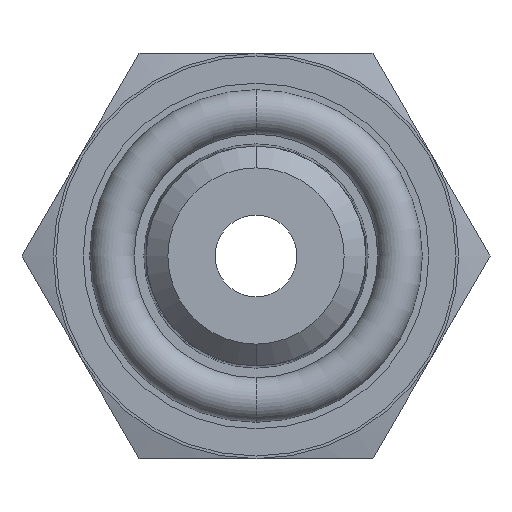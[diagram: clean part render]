
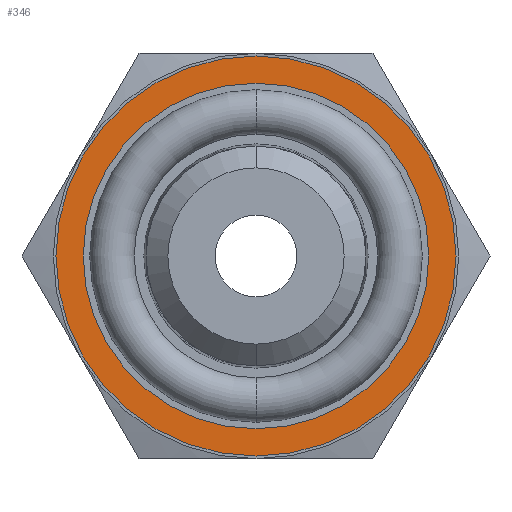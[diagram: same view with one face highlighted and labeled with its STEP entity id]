
A CAD part, left-side view. The second image highlights one B-rep face of the part: STEP entity #346.
In plain terms, the highlighted planar face has unit normal (-1, 0, 0).
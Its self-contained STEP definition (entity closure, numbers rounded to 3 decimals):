
#121 = VERTEX_POINT ( 'NONE', #828 ) ;
#123 = EDGE_CURVE ( 'NONE', #121, #124, #827, .T. ) ;
#124 = VERTEX_POINT ( 'NONE', #822 ) ;
#301 = ORIENTED_EDGE ( 'NONE', *, *, #302, .T. ) ;
#302 = EDGE_CURVE ( 'NONE', #479, #478, #1396, .T. ) ;
#303 = ORIENTED_EDGE ( 'NONE', *, *, #477, .T. ) ;
#346 = ADVANCED_FACE ( 'NONE', ( #1456, #1455 ), #1454, .T. ) ;
#347 = EDGE_LOOP ( 'NONE', ( #348, #350 ) ) ;
#348 = ORIENTED_EDGE ( 'NONE', *, *, #349, .F. ) ;
#349 = EDGE_CURVE ( 'NONE', #124, #121, #1448, .T. ) ;
#350 = ORIENTED_EDGE ( 'NONE', *, *, #123, .F. ) ;
#351 = EDGE_LOOP ( 'NONE', ( #301, #303 ) ) ;
#477 = EDGE_CURVE ( 'NONE', #478, #479, #1813, .T. ) ;
#478 = VERTEX_POINT ( 'NONE', #1808 ) ;
#479 = VERTEX_POINT ( 'NONE', #1807 ) ;
#822 = CARTESIAN_POINT ( 'NONE',  ( -4.5, 0., 10.15 ) ) ;
#823 = DIRECTION ( 'NONE',  ( 0., 0., 1. ) ) ;
#824 = DIRECTION ( 'NONE',  ( -1., 0., 0. ) ) ;
#825 = CARTESIAN_POINT ( 'NONE',  ( -4.5, 0., 0. ) ) ;
#826 = AXIS2_PLACEMENT_3D ( 'NONE', #825, #824, #823 ) ;
#827 = CIRCLE ( 'NONE', #826, 10.15 ) ;
#828 = CARTESIAN_POINT ( 'NONE',  ( -4.5, 0., -10.15 ) ) ;
#1392 = DIRECTION ( 'NONE',  ( 0., 0., 1. ) ) ;
#1393 = DIRECTION ( 'NONE',  ( -1., 0., 0. ) ) ;
#1394 = CARTESIAN_POINT ( 'NONE',  ( -4.5, 0., 0. ) ) ;
#1395 = AXIS2_PLACEMENT_3D ( 'NONE', #1394, #1393, #1392 ) ;
#1396 = CIRCLE ( 'NONE', #1395, 11.75 ) ;
#1445 = DIRECTION ( 'NONE',  ( 0., 0., 1. ) ) ;
#1446 = DIRECTION ( 'NONE',  ( -1., 0., 0. ) ) ;
#1447 = AXIS2_PLACEMENT_3D ( 'NONE', #1452, #1446, #1445 ) ;
#1448 = CIRCLE ( 'NONE', #1447, 10.15 ) ;
#1449 = DIRECTION ( 'NONE',  ( 0., 0., 1. ) ) ;
#1450 = DIRECTION ( 'NONE',  ( -1., 0., 0. ) ) ;
#1451 = AXIS2_PLACEMENT_3D ( 'NONE', #1453, #1450, #1449 ) ;
#1452 = CARTESIAN_POINT ( 'NONE',  ( -4.5, 0., 0. ) ) ;
#1453 = CARTESIAN_POINT ( 'NONE',  ( -4.5, 0., 0. ) ) ;
#1454 = PLANE ( 'NONE',  #1451 ) ;
#1455 = FACE_OUTER_BOUND ( 'NONE', #351, .T. ) ;
#1456 = FACE_BOUND ( 'NONE', #347, .T. ) ;
#1807 = CARTESIAN_POINT ( 'NONE',  ( -4.5, 0., -11.75 ) ) ;
#1808 = CARTESIAN_POINT ( 'NONE',  ( -4.5, 0., 11.75 ) ) ;
#1809 = DIRECTION ( 'NONE',  ( 0., 0., 1. ) ) ;
#1810 = DIRECTION ( 'NONE',  ( -1., 0., 0. ) ) ;
#1811 = CARTESIAN_POINT ( 'NONE',  ( -4.5, 0., 0. ) ) ;
#1812 = AXIS2_PLACEMENT_3D ( 'NONE', #1811, #1810, #1809 ) ;
#1813 = CIRCLE ( 'NONE', #1812, 11.75 ) ;
